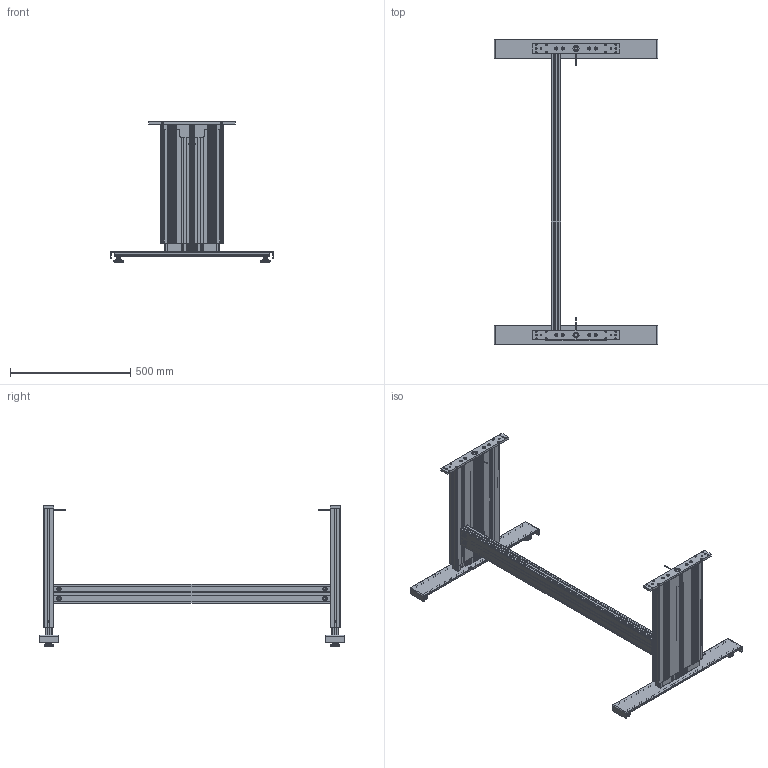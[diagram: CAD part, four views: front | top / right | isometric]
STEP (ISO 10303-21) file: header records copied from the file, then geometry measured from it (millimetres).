
FILE_DESCRIPTION(/* description */ ('Unknown'),/* implementation_level */ '2;1');
FILE_NAME(/* name */ '108.00462 Untergestell TT-2 1830 1190_eingefahren',/* time_stamp */ '2017-12-04T15:29:01+01:00',/* author */ ('Unknown'),/* organization */ ('Unknown'),/* preprocessor_version */ 'ST-DEVELOPER v16.7',/* originating_system */ 'DEX',/* authorisation */ $);
FILE_SCHEMA (('AUTOMOTIVE_DESIGN {1 0 10303 214 3 1 1}'));
Products named in the file (30): 108.00462; 106.00383_oa_0; 119.00203; 119.00154; 142.00188; 142.00166; 142.00031; 126.00102; 109.00024_oa_1; 115.00008_oa_2; 125.00063; 142.00021; 125.00021; 113.00002_70mm; 106.00383_oa_3; 109.00024_oa_4; 115.00008_oa_5; 115.00093; 119.00173; 142.00207; 127.00515; 127.00520; 127.00556; 127.00557; 127.00520_461_469_Kehlnaht 1_oa_6; 113.00095; 113.00099; 113.00096; 113.00097; 113.00098
Assembly tree (52 placements, depth 5):
  108.00462
    106.00383_oa_0
      119.00203
      119.00154
      142.00188  x2
      142.00166  x4
      142.00031
      126.00102
      109.00024_oa_1
        115.00008_oa_2
        125.00063
        142.00021
        125.00021
      113.00002_70mm
    106.00383_oa_3
      119.00203
      119.00154
      142.00188  x2
      142.00166  x4
      142.00031
      126.00102
      109.00024_oa_4
        115.00008_oa_5
        125.00063
        142.00021
        125.00021
      113.00002_70mm
    115.00093
      119.00173
      142.00207  x4
    127.00515  x2
      127.00520
        127.00556
        127.00557
        127.00520_461_469_Kehlnaht 1_oa_6
      113.00095
        113.00099
        113.00096
          113.00097
          113.00098
Bounding box: 680 x 1270 x 583.5 mm (x, y, z)
Volume: 6598123.9 mm3; surface area: 4676292.1 mm2
Topology: 73 solids, 81 shells, 4884 faces, 13898 edges, 9236 vertices
Faces by surface type: plane 3036, cylinder 1548, cone 194, torus 72, bspline 24, sphere 10
Full cylindrical faces by diameter (mm): 1.8 x4, 2.2 x2, 2.99 x2, 3.242 x4, 3.5 x2, 4 x6, 4.1 x2, 4.2 x2, 5 x12, 5.5 x8, 6.6 x8, 6.647 x16, 6.917 x4, 7.5 x4, 8 x16, 8.376 x6, 8.5 x20, 8.7 x8, 10 x8, 11.3 x8, 12 x4, 12.5 x10, 13 x4, 13.5 x6, 13.7 x2, 14.4 x2, 17.9 x4, 18 x16, 25 x10, 27.2 x4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
Entity records: 85317 total; most frequent: CARTESIAN_POINT 14590, ORIENTED_EDGE 13064, DIRECTION 12703, EDGE_CURVE 6532, LINE 4481, VECTOR 4481, VERTEX_POINT 4423, AXIS2_PLACEMENT_3D 4111
